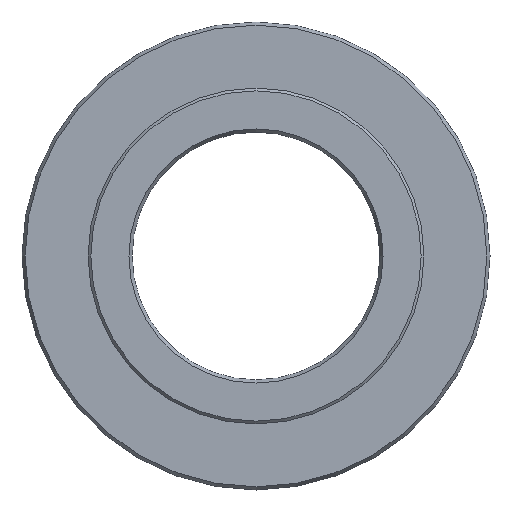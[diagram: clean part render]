
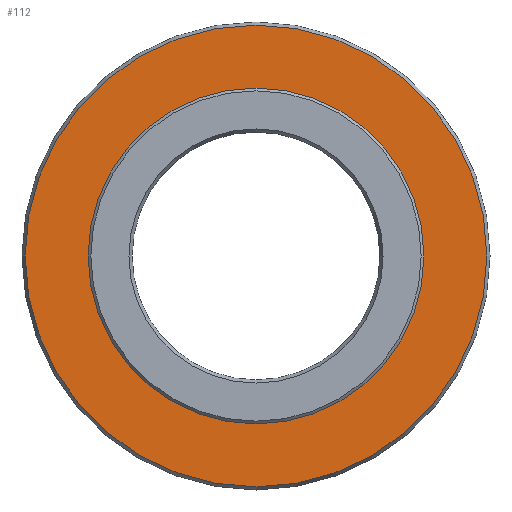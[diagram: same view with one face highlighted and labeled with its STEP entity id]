
A CAD part, left-side view. The second image highlights one B-rep face of the part: STEP entity #112.
In plain terms, the highlighted planar face has unit normal (-1, 0, 0).
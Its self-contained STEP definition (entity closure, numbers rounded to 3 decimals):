
#107=PLANE('',#279);
#112=ADVANCED_FACE('',(#131,#132),#107,.T.);
#131=FACE_BOUND('',#163,.T.);
#132=FACE_BOUND('',#164,.T.);
#163=EDGE_LOOP('',(#195));
#164=EDGE_LOOP('',(#196));
#195=ORIENTED_EDGE('',*,*,#243,.T.);
#196=ORIENTED_EDGE('',*,*,#244,.T.);
#227=VERTEX_POINT('',#379);
#228=VERTEX_POINT('',#381);
#243=EDGE_CURVE('',#227,#227,#259,.T.);
#244=EDGE_CURVE('',#228,#228,#260,.T.);
#259=CIRCLE('',#277,41.923);
#260=CIRCLE('',#278,30.5);
#277=AXIS2_PLACEMENT_3D('',#378,#314,#315);
#278=AXIS2_PLACEMENT_3D('',#380,#316,#317);
#279=AXIS2_PLACEMENT_3D('',#382,#318,#319);
#314=DIRECTION('',(-1.,0.,0.));
#315=DIRECTION('',(0.,0.,1.));
#316=DIRECTION('',(1.,0.,0.));
#317=DIRECTION('',(0.,0.,-1.));
#318=DIRECTION('',(-1.,0.,0.));
#319=DIRECTION('',(0.,0.,1.));
#378=CARTESIAN_POINT('',(0.,0.,0.));
#379=CARTESIAN_POINT('',(0.,0.,41.923));
#380=CARTESIAN_POINT('',(0.,0.,0.));
#381=CARTESIAN_POINT('',(0.,0.,-30.5));
#382=CARTESIAN_POINT('',(0.,42.5,0.));
